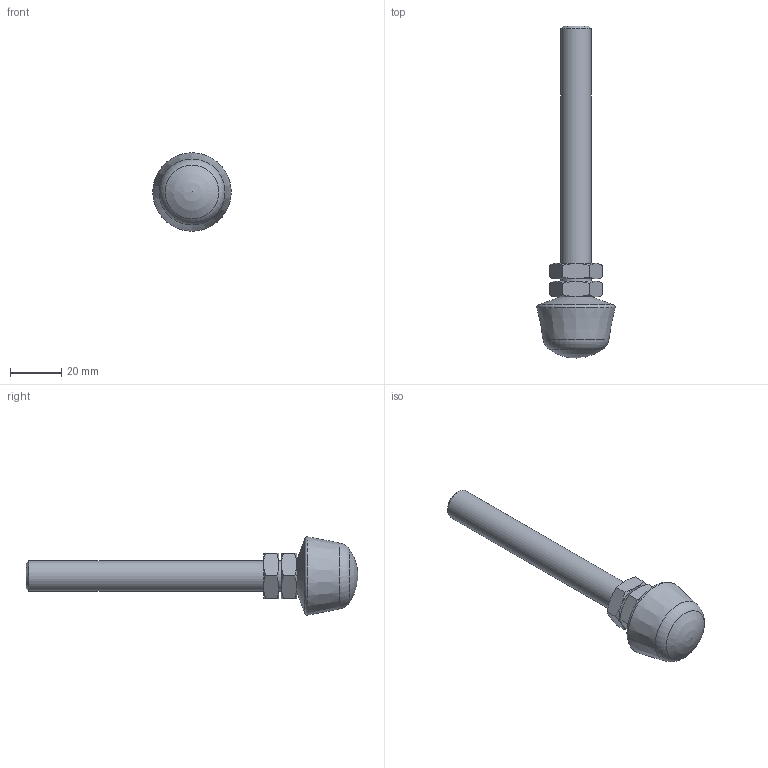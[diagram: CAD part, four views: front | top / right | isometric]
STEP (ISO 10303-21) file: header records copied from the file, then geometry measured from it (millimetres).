
FILE_DESCRIPTION( ( 'STEP AP203' ), '1' );
FILE_NAME( 'C:/Temp/Ganter_Step_05_03_2020/data/2_4/gn_708_1/gn_708_1_ni/Stainless Steel-Clamping bolt GN 708.1-M12-130-B-NI (0).stp', '2020-03-13T05:51:27', ( 'License CC BY-ND 4.0' ), ( 'CADENAS' ), ' ', 'PARTsolutions', ' ' );
FILE_SCHEMA( ( 'CONFIG_CONTROL_DESIGN' ) );
Length unit declared in the file: millimetre
Products named in the file (3): Stainless Steel-Clamping bolt GN 708.1-M12-130-B-NI (0); _Edelstahl-Andrueckschraube GN 708.1-M12-130-B-NI (0)-1; _Edelstahl-Andrueckschraube GN 708.1-M12-130-B-NI-2
Assembly tree (3 placements, depth 2):
  Stainless Steel-Clamping bolt GN 708.1-M12-130-B-NI (0)
    _Edelstahl-Andrueckschraube GN 708.1-M12-130-B-NI (0)-1
    _Edelstahl-Andrueckschraube GN 708.1-M12-130-B-NI-2  x2
Bounding box: 30.71 x 130 x 30.71 mm (x, y, z)
Volume: 26441.6 mm3; surface area: 8491.4 mm2
Topology: 3 solids, 3 shells, 54 faces, 114 edges, 65 vertices
Faces by surface type: cone 31, plane 17, cylinder 3, torus 2, sphere 1
Full cylindrical faces by diameter (mm): 10.106 x2, 12 x1
Entity records: 958 total; most frequent: CARTESIAN_POINT 261, DIRECTION 122, ORIENTED_EDGE 106, AXIS2_PLACEMENT_3D 58, EDGE_CURVE 53, EDGE_LOOP 42, VERTEX_POINT 37, FACE_OUTER_BOUND 35
